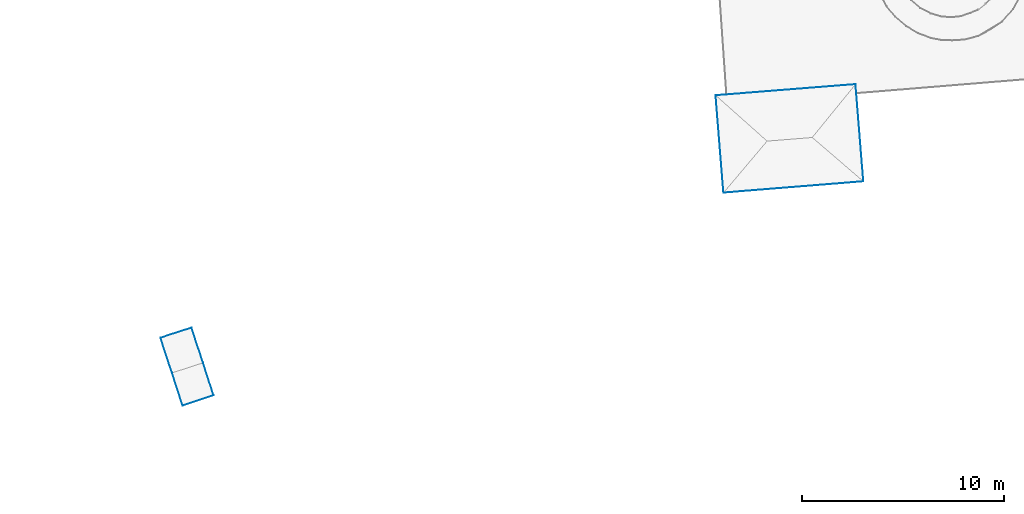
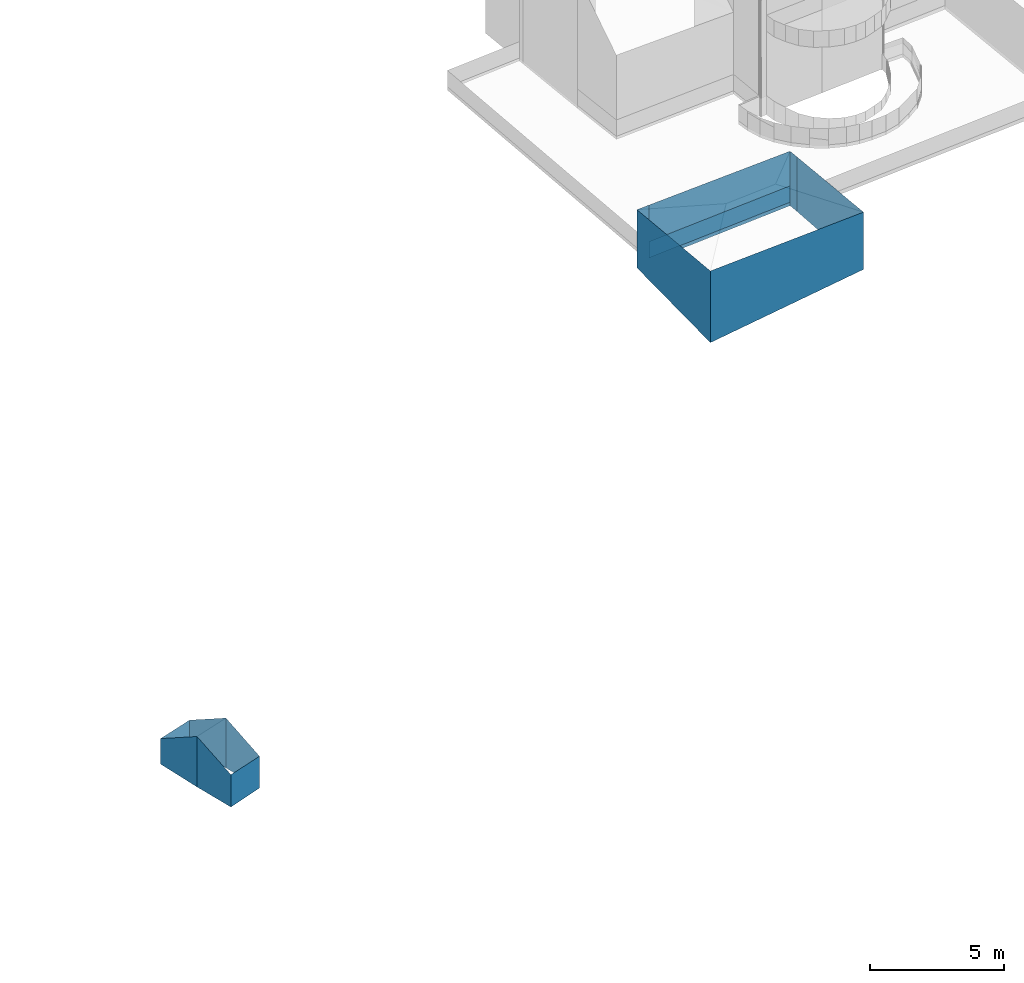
# Not in any storey, part 17 of 59: 14 walls.
"""IFC4 building model written with IfcOpenShell, lengths in metres."""

from ifc_helpers import new_model, entity, si_unit, converted_unit, frame, origin, place, context, subcontext, project, spatial, face_set, surface_model, element, save


model = new_model("IFC4")

# Units and contexts
model_context = context("Model", 3, precision=1e-05, world=origin())
body_context = subcontext(model_context, "Body", "Model", "MODEL_VIEW")
ifc_project = project(units=[converted_unit("PLANEANGLEUNIT", "DEGREE", entity("IfcRatioMeasure", 0.0174532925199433), si_unit("PLANEANGLEUNIT", "RADIAN"), dimensions=[0, 0, 0, 0, 0, 0, 0]), si_unit("AREAUNIT", "SQUARE_METRE"), si_unit("LENGTHUNIT", "METRE")], contexts=[model_context])

# Site, building
site_placement = place(None, origin())
site = spatial("IfcSite", under=ifc_project, at=site_placement, Name="_site")
building_1_placement = place(site_placement, origin())
building_1 = spatial("IfcBuilding", under=site, at=building_1_placement, Name="_building")

# Walls
wall_1_placement = place(building_1_placement, origin())
element("IfcWall", 1, at=wall_1_placement, inside=building_1, Name="Wall", PredefinedType="NOTDEFINED", context=body_context, shape_type="SurfaceModel", body=[
    surface_model("IfcFaceBasedSurfaceModel", [(200.21, 74.381, 221.35), (200.78, 72.641, 222.3), (200.78, 72.641, 220.021), (200.21, 74.381, 220.279)], [face_set([[[0, 1, 2, 3]]])]),
])
wall_2_placement = place(building_1_placement, origin())
element("IfcWall", 2, at=wall_2_placement, inside=building_1, Name="Wall", PredefinedType="NOTDEFINED", context=body_context, shape_type="SurfaceModel", body=[
    surface_model("IfcFaceBasedSurfaceModel", [(199.24, 72.141, 222.3), (198.67, 73.881, 221.35), (198.67, 73.881, 220.182), (199.24, 72.141, 219.995)], [face_set([[[0, 1, 2, 3]]])]),
])
wall_3_placement = place(building_1_placement, origin())
element("IfcWall", 3, at=wall_3_placement, inside=building_1, Name="Wall", PredefinedType="NOTDEFINED", context=body_context, shape_type="SurfaceModel", body=[
    surface_model("IfcFaceBasedSurfaceModel", [(200.78, 72.641, 222.3), (201.3, 71.029, 221.35), (201.3, 71.029, 219.895), (200.78, 72.641, 220.021)], [face_set([[[0, 1, 2, 3]]])]),
])
wall_4_placement = place(building_1_placement, origin())
element("IfcWall", 4, at=wall_4_placement, inside=building_1, Name="Wall", PredefinedType="NOTDEFINED", context=body_context, shape_type="SurfaceModel", body=[
    surface_model("IfcFaceBasedSurfaceModel", [(199.77, 70.52, 221.35), (199.24, 72.141, 222.3), (199.24, 72.141, 219.995), (199.77, 70.52, 219.872)], [face_set([[[0, 1, 2, 3]]])]),
])
wall_5_placement = place(building_1_placement, origin())
element("IfcWall", 5, at=wall_5_placement, inside=building_1, Name="Wall", PredefinedType="NOTDEFINED", context=body_context, shape_type="SurfaceModel", body=[
    surface_model("IfcFaceBasedSurfaceModel", [(198.67, 73.881, 221.35), (200.21, 74.381, 221.35), (200.21, 74.381, 220.279), (198.67, 73.881, 220.182)], [face_set([[[0, 1, 2, 3]]])]),
])
wall_6_placement = place(building_1_placement, origin())
element("IfcWall", 6, at=wall_6_placement, inside=building_1, Name="Wall", PredefinedType="NOTDEFINED", context=body_context, shape_type="SurfaceModel", body=[
    surface_model("IfcFaceBasedSurfaceModel", [(201.3, 71.029, 221.35), (199.77, 70.52, 221.35), (199.77, 70.52, 219.872), (201.3, 71.029, 219.895)], [face_set([[[0, 1, 2, 3]]])]),
])

# Building
building_2_placement = place(site_placement, origin())
building_2 = spatial("IfcBuilding", under=site, at=building_2_placement, Name="_building")

# Walls
wall_7_placement = place(building_2_placement, origin())
element("IfcWall", 7, at=wall_7_placement, inside=building_2, Name="Wall", PredefinedType="NOTDEFINED", context=body_context, shape_type="SurfaceModel", body=[
    surface_model("IfcFaceBasedSurfaceModel", [(226.75, 85.951, 228.583), (233.15, 86.461, 228.5), (233.15, 86.461, 226.006), (226.75, 85.951, 226.0)], [face_set([[[0, 1, 2, 3]]])]),
])
wall_8_placement = place(building_2_placement, origin())
element("IfcWall", 8, at=wall_8_placement, inside=building_2, Name="Wall", PredefinedType="NOTDEFINED", context=body_context, shape_type="SurfaceModel", body=[
    surface_model("IfcFaceBasedSurfaceModel", [(226.21, 85.91, 228.59), (226.75, 85.951, 228.583), (226.75, 85.951, 226.0), (226.21, 85.91, 225.935)], [face_set([[[0, 1, 2, 3]]])]),
])
wall_9_placement = place(building_2_placement, origin())
element("IfcWall", 9, at=wall_9_placement, inside=building_2, Name="Wall", PredefinedType="NOTDEFINED", context=body_context, shape_type="SurfaceModel", body=[
    surface_model("IfcFaceBasedSurfaceModel", [(233.15, 86.461, 228.5), (233.188, 86.01, 228.5), (233.188, 86.01, 226.005), (233.15, 86.461, 226.006)], [face_set([[[0, 1, 2, 3]]])]),
])
wall_10_placement = place(building_2_placement, origin())
element("IfcWall", 10, at=wall_10_placement, inside=building_2, Name="Wall", PredefinedType="NOTDEFINED", context=body_context, shape_type="SurfaceModel", body=[
    surface_model("IfcFaceBasedSurfaceModel", [(233.188, 86.01, 228.5), (233.54, 81.641, 228.5), (233.54, 81.641, 225.879), (233.188, 86.01, 226.005)], [face_set([[[0, 1, 2, 3]]])]),
])
wall_11_placement = place(building_2_placement, origin())
element("IfcWall", 11, at=wall_11_placement, inside=building_2, Name="Wall", PredefinedType="NOTDEFINED", context=body_context, shape_type="SurfaceModel", body=[
    surface_model("IfcFaceBasedSurfaceModel", [(226.6, 81.08, 228.58), (226.21, 85.91, 228.59), (226.21, 85.91, 225.935), (226.6, 81.08, 225.304)], [face_set([[[0, 1, 2, 3]]])]),
])
wall_12_placement = place(building_2_placement, origin())
element("IfcWall", 12, at=wall_12_placement, inside=building_2, Name="Wall", PredefinedType="NOTDEFINED", context=body_context, shape_type="SurfaceModel", body=[
    surface_model("IfcFaceBasedSurfaceModel", [(233.54, 81.641, 228.5), (226.6, 81.08, 228.58), (226.6, 81.08, 225.304), (233.54, 81.641, 225.879)], [face_set([[[0, 1, 2, 3]]])]),
])
for number, where, name in (
    (13, (0.0, 0.0, 0.0), "Wall"),
    (14, (0.0, 0.0, 0.0), "Wall"),
):
    element("IfcWall", number, at=place(building_2_placement, frame(where)), inside=building_2, Name=name, PredefinedType="NOTDEFINED", context=body_context, shape_type="SurfaceModel", body=[
        surface_model("IfcFaceBasedSurfaceModel", [(233.15, 86.461, 226.165), (226.75, 85.951, 226.165), (226.75, 85.951, 226.915), (233.15, 86.461, 226.915)], [face_set([[[0, 1, 2, 3]]])]),
    ])

save(model, "model.ifc")
